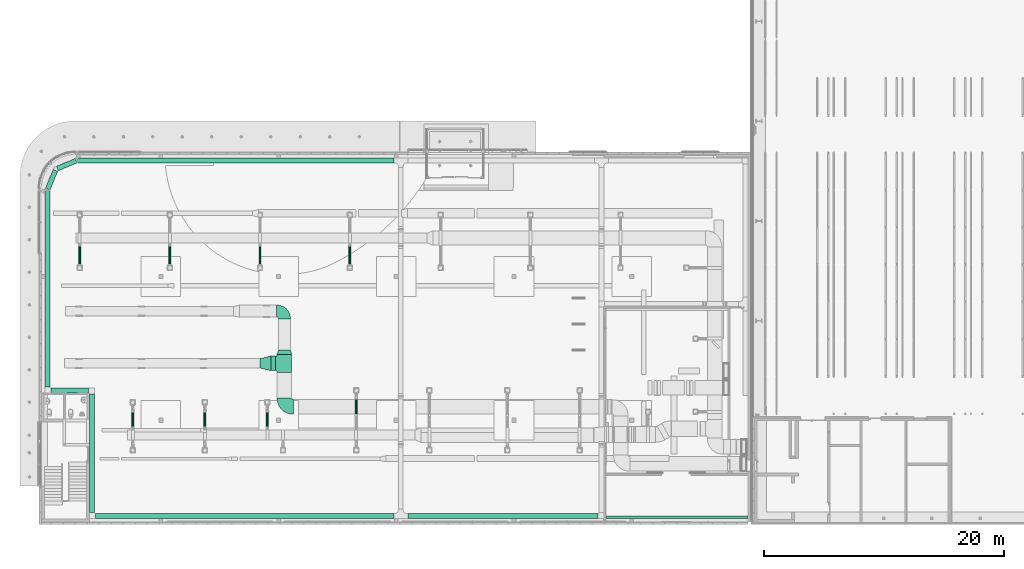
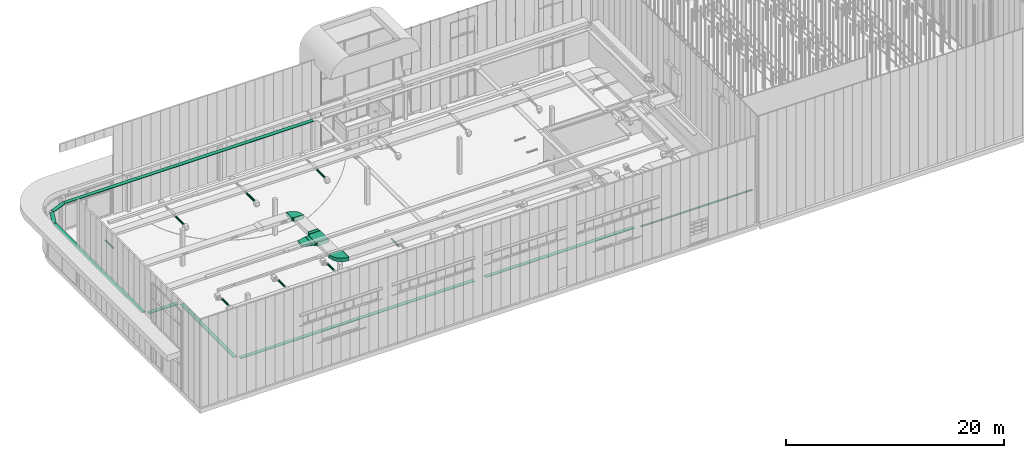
# One storey, part 254 of 302: 17 flow segments, 6 flow fittings.
"""IFC2X3 building model written with IfcOpenShell, lengths in metres."""

from ifc_helpers import new_model, entity, si_unit, converted_unit, derived_unit, direction, frame, frame_2d, origin, origin_2d_with_axis, place, context, subcontext, project, spatial, polyline, circle_curve, parameter, trimmed, segment, composite_curve, rectangle, circle, outline, extrude, source, transform, mapped, material, material_list, type_object, type_shapes, element, save


model = new_model("IFC2X3")

# Units and contexts
model_context = context("Model", 3, precision=1e-05, world=origin(), true_north=direction((6.12303176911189e-17, 1.0)))
body_context = subcontext(model_context, "Body", "Model", "MODEL_VIEW")
ifc_project = project(units=[si_unit("LENGTHUNIT", "METRE"), si_unit("AREAUNIT", "SQUARE_METRE"), si_unit("VOLUMEUNIT", "CUBIC_METRE"), converted_unit("PLANEANGLEUNIT", "DEGREE", entity("IfcRatioMeasure", 0.0174532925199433), si_unit("PLANEANGLEUNIT", "RADIAN"), dimensions=[0, 0, 0, 0, 0, 0, 0]), si_unit("MASSUNIT", "GRAM", prefix="KILO"), derived_unit("MASSDENSITYUNIT", [(si_unit("MASSUNIT", "GRAM", prefix="KILO"), 1), (si_unit("LENGTHUNIT", "METRE"), -3)]), derived_unit("MOMENTOFINERTIAUNIT", [(si_unit("LENGTHUNIT", "METRE"), 4)]), si_unit("TIMEUNIT", "SECOND"), si_unit("FREQUENCYUNIT", "HERTZ"), si_unit("THERMODYNAMICTEMPERATUREUNIT", "DEGREE_CELSIUS"), derived_unit("THERMALTRANSMITTANCEUNIT", [(si_unit("MASSUNIT", "GRAM", prefix="KILO"), 1), (si_unit("THERMODYNAMICTEMPERATUREUNIT", "KELVIN"), -1), (si_unit("TIMEUNIT", "SECOND"), -3)]), derived_unit("VOLUMETRICFLOWRATEUNIT", [(si_unit("LENGTHUNIT", "METRE"), 3), (si_unit("TIMEUNIT", "SECOND"), -1)]), si_unit("ELECTRICCURRENTUNIT", "AMPERE"), si_unit("ELECTRICVOLTAGEUNIT", "VOLT"), si_unit("POWERUNIT", "WATT"), si_unit("FORCEUNIT", "NEWTON", prefix="KILO"), si_unit("ILLUMINANCEUNIT", "LUX"), si_unit("LUMINOUSFLUXUNIT", "LUMEN"), si_unit("LUMINOUSINTENSITYUNIT", "CANDELA"), derived_unit("USERDEFINED", [(si_unit("MASSUNIT", "GRAM", prefix="KILO"), -1), (si_unit("LENGTHUNIT", "METRE"), -2), (si_unit("TIMEUNIT", "SECOND"), 3), (si_unit("LUMINOUSFLUXUNIT", "LUMEN"), 1)]), derived_unit("LINEARVELOCITYUNIT", [(si_unit("LENGTHUNIT", "METRE"), 1), (si_unit("TIMEUNIT", "SECOND"), -1)]), si_unit("PRESSUREUNIT", "PASCAL"), derived_unit("USERDEFINED", [(si_unit("LENGTHUNIT", "METRE"), -2), (si_unit("MASSUNIT", "GRAM", prefix="KILO"), 1), (si_unit("TIMEUNIT", "SECOND"), -2)]), derived_unit("LINEARFORCEUNIT", [(si_unit("MASSUNIT", "GRAM", prefix="KILO"), 1), (si_unit("LENGTHUNIT", "METRE"), 1), (si_unit("TIMEUNIT", "SECOND"), -2), (si_unit("LENGTHUNIT", "METRE"), -1)]), derived_unit("PLANARFORCEUNIT", [(si_unit("MASSUNIT", "GRAM", prefix="KILO"), 1), (si_unit("LENGTHUNIT", "METRE"), 1), (si_unit("TIMEUNIT", "SECOND"), -2), (si_unit("LENGTHUNIT", "METRE"), -2)])], contexts=[model_context])

# Site, building, storey
site_placement = place(None, origin())
site = spatial("IfcSite", under=ifc_project, at=site_placement, Name="Default", CompositionType="ELEMENT")
building_placement = place(site_placement, origin())
building = spatial("IfcBuilding", under=site, at=building_placement, CompositionType="ELEMENT")
storey_placement = place(building_placement, frame((0.0, 0.0, -1.3)))
storey = spatial("IfcBuildingStorey", under=building, at=storey_placement, Name="00_EG", CompositionType="ELEMENT", Elevation=-1.3)

# Flow segments
cable_carrier_segment_type = type_object("IfcCableCarrierSegmentType", Name="Kabeltrasse mit Formteilen:Channel Cable Tray", PredefinedType="CABLETRAYSEGMENT")
flow_segment_1_placement = place(storey_placement, origin())
element("IfcFlowSegment", 1, at=flow_segment_1_placement, inside=storey, type_object=cable_carrier_segment_type, Name="Kabeltrasse mit Formteilen:Channel Cable Tray", ObjectType="Kabeltrasse mit Formteilen:Channel Cable Tray", context=body_context, shape_type="SweptSolid", body=[
    extrude(rectangle(XDim=26.3040459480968, YDim=0.399999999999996, at=frame_2d((-1.77635683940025e-14, 0.0), x_axis=(1.0, 0.0))), frame((-250.504634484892, 45.0580889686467, 4.82), z_axis=(0.0, 0.0, 1.0), x_axis=(-1.0, 0.0, 0.0)), (0.0, 0.0, 1.0), 0.0600000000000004),
])
flow_segment_2_placement = place(storey_placement, origin())
element("IfcFlowSegment", 2, at=flow_segment_2_placement, inside=storey, type_object=cable_carrier_segment_type, Name="Kabeltrasse mit Formteilen:Channel Cable Tray", ObjectType="Kabeltrasse mit Formteilen:Channel Cable Tray", context=body_context, shape_type="SweptSolid", body=[
    extrude(rectangle(XDim=1.68645071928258, YDim=0.400000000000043, at=frame_2d((3.03090885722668e-14, -1.72639680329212e-14), x_axis=(1.0, 0.0))), frame((-264.550501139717, 44.7125644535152, 4.82), z_axis=(0.0, 0.0, 1.0), x_axis=(0.92387953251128, 0.382683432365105, 0.0)), (0.0, 0.0, 1.0), 0.0599999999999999),
])
flow_segment_3_placement = place(storey_placement, origin())
element("IfcFlowSegment", 3, at=flow_segment_3_placement, inside=storey, type_object=cable_carrier_segment_type, Name="Kabeltrasse mit Formteilen:Channel Cable Tray", ObjectType="Kabeltrasse mit Formteilen:Channel Cable Tray", context=body_context, shape_type="SweptSolid", body=[
    extrude(rectangle(XDim=1.6864507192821, YDim=0.399999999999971, at=frame_2d((6.60582699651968e-15, -1.60010893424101e-14), x_axis=(1.0, 0.0))), frame((-265.814586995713, 43.4484785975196, 4.82), z_axis=(0.0, 0.0, 1.0), x_axis=(0.382683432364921, 0.923879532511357, 0.0)), (0.0, 0.0, 1.0), 0.060000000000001),
])
flow_segment_4_placement = place(storey_placement, origin())
element("IfcFlowSegment", 4, at=flow_segment_4_placement, inside=storey, type_object=cable_carrier_segment_type, Name="Kabeltrasse mit Formteilen:Channel Cable Tray", ObjectType="Kabeltrasse mit Formteilen:Channel Cable Tray", context=body_context, shape_type="SweptSolid", body=[
    extrude(rectangle(XDim=16.3315459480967, YDim=0.399999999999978, at=frame_2d((0.0, 3.46389583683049e-14), x_axis=(1.0, 0.0))), frame((-266.160111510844, 34.3888619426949, 4.82), z_axis=(0.0, 0.0, 1.0), x_axis=(0.0, -1.0, 0.0)), (0.0, 0.0, 1.0), 0.0600000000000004),
])
flow_segment_5_placement = place(storey_placement, origin())
element("IfcFlowSegment", 5, at=flow_segment_5_placement, inside=storey, type_object=cable_carrier_segment_type, Name="Kabeltrasse mit Formteilen:Channel Cable Tray", ObjectType="Kabeltrasse mit Formteilen:Channel Cable Tray", context=body_context, shape_type="SweptSolid", body=[
    extrude(rectangle(XDim=3.09999999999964, YDim=0.399999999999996, at=origin_2d_with_axis()), frame((-264.310111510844, 25.9230889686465, 4.82)), (0.0, 0.0, 1.0), 0.0600000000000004),
])
flow_segment_6_placement = place(storey_placement, origin())
element("IfcFlowSegment", 6, at=flow_segment_6_placement, inside=storey, type_object=cable_carrier_segment_type, Name="Kabeltrasse mit Formteilen:Channel Cable Tray", ObjectType="Kabeltrasse mit Formteilen:Channel Cable Tray", context=body_context, shape_type="SweptSolid", body=[
    extrude(rectangle(XDim=9.82499999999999, YDim=0.399999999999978, at=frame_2d((0.0, -3.46389583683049e-14), x_axis=(1.0, 0.0))), frame((-262.460111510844, 20.7105889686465, 4.82), z_axis=(0.0, 0.0, 1.0), x_axis=(0.0, -1.0, 0.0)), (0.0, 0.0, 1.0), 0.0600000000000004),
])
flow_segment_7_placement = place(storey_placement, origin())
element("IfcFlowSegment", 7, at=flow_segment_7_placement, inside=storey, type_object=cable_carrier_segment_type, Name="Kabeltrasse mit Formteilen:Channel Cable Tray", ObjectType="Kabeltrasse mit Formteilen:Channel Cable Tray", context=body_context, shape_type="SweptSolid", body=[
    extrude(rectangle(XDim=24.8075000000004, YDim=0.4, at=origin_2d_with_axis()), frame((-249.756361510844, 15.4980889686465, 4.82), z_axis=(0.0, 0.0, 1.0), x_axis=(-1.0, 0.0, 0.0)), (0.0, 0.0, 1.0), 0.0600000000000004),
])
flow_segment_8_placement = place(storey_placement, origin())
element("IfcFlowSegment", 8, at=flow_segment_8_placement, inside=storey, type_object=cable_carrier_segment_type, Name="Kabeltrasse mit Formteilen:Channel Cable Tray", ObjectType="Kabeltrasse mit Formteilen:Channel Cable Tray", context=body_context, shape_type="SweptSolid", body=[
    extrude(rectangle(XDim=15.8074999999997, YDim=0.4, at=origin_2d_with_axis()), frame((-228.288861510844, 15.4980889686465, 4.82), z_axis=(0.0, 0.0, 1.0), x_axis=(-1.0, 0.0, 0.0)), (0.0, 0.0, 1.0), 0.0600000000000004),
])
flow_segment_9_placement = place(storey_placement, origin())
element("IfcFlowSegment", 9, at=flow_segment_9_placement, inside=storey, type_object=cable_carrier_segment_type, Name="Kabeltrasse mit Formteilen:Channel Cable Tray", ObjectType="Kabeltrasse mit Formteilen:Channel Cable Tray", context=body_context, shape_type="SweptSolid", body=[
    extrude(rectangle(XDim=11.775, YDim=0.199999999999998, at=frame_2d((1.73194791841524e-14, -2.16493489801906e-15), x_axis=(1.0, 0.0))), frame((-213.797611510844, 15.3980889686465, 4.74)), (0.0, 0.0, 1.0), 0.0600000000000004),
])

# Flow fittings
ifc_material = material(Name="<Unnamed>")
ifc_material_list_1 = material_list([ifc_material, ifc_material, ifc_material, ifc_material, ifc_material])
duct_fitting_type_1 = type_object("IfcDuctFittingType", Name="Bogen rechteck BS:Standard", PredefinedType="NOTDEFINED", material=ifc_material_list_1)
shared_shape_1 = source(origin(), body_context, "Body", "SweptSolid", [
    extrude(rectangle(XDim=0.0550000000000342, YDim=1.2, at=frame_2d((6.76542155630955e-17, -5.55111512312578e-17), x_axis=(1.0, 0.0))), frame((0.0, 0.727499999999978, -0.2), z_axis=(0.0, 0.0, 1.0), x_axis=(0.0, 1.0, 0.0)), (0.0, 0.0, 1.0), 0.4),
    extrude(rectangle(XDim=1.19999999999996, YDim=0.0549999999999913, at=frame_2d((1.11577413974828e-14, 8.93382590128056e-15), x_axis=(1.0, 0.0))), frame((-0.727499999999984, 0.0, -0.2), z_axis=(0.0, 0.0, 1.0), x_axis=(0.0, -1.0, 0.0)), (0.0, 0.0, 1.0), 0.4),
    extrude(outline(composite_curve([segment(polyline([(-0.949999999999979, -0.35), (0.250000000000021, -0.35)]), True, "CONTINUOUS"), segment(trimmed(circle_curve(frame_2d((0.350000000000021, -0.35), x_axis=(0.0, 1.0)), 0.0999999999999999), [parameter(0.0)], [parameter(89.9999999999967)], True, "PARAMETER"), False, "CONTINUOUS"), segment(polyline([(0.350000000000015, -0.25), (0.349999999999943, 0.95)]), True, "CONTINUOUS"), segment(trimmed(circle_curve(frame_2d((0.350000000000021, -0.35), x_axis=(0.0, 1.0)), 1.3), [parameter(0.0)], [parameter(89.9999999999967)], True, "PARAMETER"), True, "CONTINUOUS")], self_intersect=False)), frame((-0.349999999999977, 0.350000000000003, -0.2), z_axis=(0.0, 0.0, 1.0), x_axis=(-1.0, 0.0, 0.0)), (0.0, 0.0, 1.0), 0.4),
    extrude(rectangle(XDim=0.00500000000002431, YDim=1.26, at=frame_2d((9.40740541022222e-15, 0.0), x_axis=(1.0, 0.0))), frame((-0.752499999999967, 0.0, -0.23)), (0.0, 0.0, 1.0), 0.46),
    extrude(rectangle(XDim=0.00500000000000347, YDim=1.26, at=origin_2d_with_axis()), frame((0.0, 0.752499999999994, -0.23), z_axis=(0.0, 0.0, 1.0), x_axis=(0.0, 1.0, 0.0)), (0.0, 0.0, 1.0), 0.46),
])
type_shapes(duct_fitting_type_1, [shared_shape_1])
flow_fitting_1_placement = place(storey_placement, frame((-246.451525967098, 24.5574450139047, 5.05), z_axis=(0.0, 0.0, 1.0), x_axis=(0.0, -1.0, 0.0)))
element("IfcFlowFitting", 10, at=flow_fitting_1_placement, inside=storey, type_object=duct_fitting_type_1, material=ifc_material, Name="Bogen rechteck BS:Standard", ObjectType="Bogen rechteck BS:Standard", context=body_context, shape_type="MappedRepresentation", body=[
    mapped(shared_shape_1, transform((0.0, 0.0, 0.0), scale=1.0)),
])
ifc_material_list_2 = material_list([ifc_material, ifc_material, ifc_material, ifc_material, ifc_material, ifc_material, ifc_material])
duct_fitting_type_2 = type_object("IfcDuctFittingType", Name="T-Stück rechteck gerade TG:Standard", PredefinedType="NOTDEFINED", material=ifc_material_list_2)
shared_shape_2 = source(origin(), body_context, "Body", "SweptSolid", [
    extrude(rectangle(XDim=0.0500000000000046, YDim=1.2, at=origin_2d_with_axis()), frame((0.0, -0.726, -0.199999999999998), z_axis=(0.0, 0.0, 1.0), x_axis=(0.0, -1.0, 0.0)), (0.0, 0.0, 1.0), 0.4),
    extrude(rectangle(XDim=0.0500000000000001, YDim=1.2, at=frame_2d((6.76542155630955e-17, 0.0), x_axis=(1.0, 0.0))), frame((0.7234, 0.0, -0.199999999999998), z_axis=(0.0, 0.0, 1.0), x_axis=(-1.0, 0.0, 0.0)), (0.0, 0.0, 1.0), 0.4),
    extrude(rectangle(XDim=0.0499999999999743, YDim=1.2, at=origin_2d_with_axis()), frame((-0.726600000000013, 0.0, -0.199999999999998)), (0.0, 0.0, 1.0), 0.4),
    extrude(outline(composite_curve([segment(trimmed(circle_curve(frame_2d((-0.70064, -0.299800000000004), x_axis=(-1.0, 0.0)), 0.1), [parameter(180.0)], [parameter(269.999999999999)], True, "PARAMETER"), False, "CONTINUOUS"), segment(polyline([(-0.60064, -0.299800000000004), (-0.60064, -0.300800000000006)]), True, "CONTINUOUS"), segment(polyline([(-0.60064, -0.300800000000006), (0.59936, -0.300800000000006)]), True, "CONTINUOUS"), segment(polyline([(0.59936, -0.300800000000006), (0.59936, -0.299799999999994)]), True, "CONTINUOUS"), segment(trimmed(circle_curve(frame_2d((0.69936, -0.299799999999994), x_axis=(-1.0, 0.0)), 0.1), [parameter(270.0)], [parameter(0.0)], True, "PARAMETER"), False, "CONTINUOUS"), segment(polyline([(0.699359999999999, -0.199799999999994), (0.70096, -0.199799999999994)]), True, "CONTINUOUS"), segment(polyline([(0.70096, -0.199799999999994), (0.70096, 1.0002)]), True, "CONTINUOUS"), segment(polyline([(0.70096, 1.0002), (-0.699040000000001, 1.0002)]), True, "CONTINUOUS"), segment(polyline([(-0.699040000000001, 1.0002), (-0.699040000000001, -0.199800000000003)]), True, "CONTINUOUS"), segment(polyline([(-0.699040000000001, -0.199800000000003), (-0.70064, -0.199800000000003)]), True, "CONTINUOUS")], self_intersect=False)), frame((-0.000640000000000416, -0.400199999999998, -0.2), z_axis=(0.0, 0.0, -1.0), x_axis=(-1.0, 0.0, 0.0)), (0.0, 0.0, -1.0), 0.4),
    extrude(rectangle(XDim=0.00499999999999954, YDim=1.26, at=frame_2d((6.76542155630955e-17, 0.0), x_axis=(1.0, 0.0))), frame((0.0, -0.753500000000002, -0.229999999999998), z_axis=(0.0, 0.0, 1.0), x_axis=(0.0, 1.0, 0.0)), (0.0, 0.0, 1.0), 0.46),
    extrude(rectangle(XDim=0.00500000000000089, YDim=1.26, at=frame_2d((6.76542155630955e-17, 0.0), x_axis=(1.0, 0.0))), frame((0.750900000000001, 0.0, -0.229999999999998), z_axis=(0.0, 0.0, 1.0), x_axis=(-1.0, 0.0, 0.0)), (0.0, 0.0, 1.0), 0.46),
    extrude(rectangle(XDim=0.00500000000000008, YDim=1.26, at=frame_2d((-6.76542155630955e-17, 0.0), x_axis=(1.0, 0.0))), frame((-0.7541, 0.0, -0.229999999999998), z_axis=(0.0, 0.0, 1.0), x_axis=(-1.0, 0.0, 0.0)), (0.0, 0.0, 1.0), 0.46),
])
type_shapes(duct_fitting_type_2, [shared_shape_2])
flow_fitting_2_placement = place(storey_placement, frame((-246.451525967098, 28.1787086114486, 5.05), z_axis=(0.0, 0.0, 1.0), x_axis=(0.0, -1.0, 0.0)))
element("IfcFlowFitting", 11, at=flow_fitting_2_placement, inside=storey, type_object=duct_fitting_type_2, material=ifc_material, Name="T-Stück rechteck gerade TG:Standard", ObjectType="T-Stück rechteck gerade TG:Standard", context=body_context, shape_type="MappedRepresentation", body=[
    mapped(shared_shape_2, transform((0.0, 0.0, 0.0), scale=1.0)),
])
ifc_material_list_3 = material_list([ifc_material, ifc_material, ifc_material, ifc_material, ifc_material])
ifc_material_list_4 = material_list([ifc_material, ifc_material, ifc_material, ifc_material, ifc_material])
duct_fitting_type_3 = type_object("IfcDuctFittingType", Name="Übergang rechteck rechteck US:Standard", PredefinedType="NOTDEFINED", material=ifc_material_list_4)
shared_shape_3 = source(origin(), body_context, "Body", "SweptSolid", [
    extrude(rectangle(XDim=0.0550000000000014, YDim=0.799999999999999, at=frame_2d((6.76542155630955e-17, 0.0), x_axis=(1.0, 0.0))), frame((0.882499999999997, 0.0, -0.125000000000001)), (0.0, 0.0, 1.0), 0.25),
    extrude(outline(polyline([(-0.533578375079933, -0.485071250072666), (0.291042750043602, -0.485071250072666), (0.485071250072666, 0.2910427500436), (-0.242535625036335, 0.679099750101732), (-0.533578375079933, -0.485071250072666)])), frame((0.455000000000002, 0.0, -0.125), z_axis=(0.0, 0.0, 1.0), x_axis=(0.970142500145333, 0.242535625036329, 0.0)), (0.0, 0.0, 1.0), 0.25),
    extrude(rectangle(XDim=0.0550000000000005, YDim=1.2, at=frame_2d((-4.78783679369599e-16, -5.55111512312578e-17), x_axis=(1.0, 0.0))), frame((0.0274999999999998, 0.0, -0.125)), (0.0, 0.0, 1.0), 0.25),
    extrude(rectangle(XDim=0.00499999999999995, YDim=0.859999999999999, at=origin_2d_with_axis()), frame((0.907499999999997, 0.0, -0.155000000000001)), (0.0, 0.0, 1.0), 0.31),
    extrude(rectangle(XDim=0.0050000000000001, YDim=1.26, at=frame_2d((-5.32993787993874e-16, 0.0), x_axis=(1.0, 0.0))), frame((0.00249999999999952, 0.0, -0.155)), (0.0, 0.0, 1.0), 0.31),
])
type_shapes(duct_fitting_type_3, [shared_shape_3])
flow_fitting_3_placement = place(storey_placement, frame((-247.567525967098, 28.1787086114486, 5.12499999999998), z_axis=(0.0, 0.0, 1.0), x_axis=(-1.0, 0.0, 0.0)))
element("IfcFlowFitting", 12, at=flow_fitting_3_placement, inside=storey, type_object=duct_fitting_type_3, material=ifc_material_list_3, Name="Übergang rechteck rechteck US:Standard", ObjectType="Übergang rechteck rechteck US:Standard", context=body_context, shape_type="MappedRepresentation", body=[
    mapped(shared_shape_3, transform((0.0, 0.0, 0.0), scale=1.0)),
])
ifc_material_list_5 = material_list([ifc_material, ifc_material, ifc_material, ifc_material, ifc_material])
ifc_material_list_6 = material_list([ifc_material, ifc_material, ifc_material, ifc_material, ifc_material])
duct_fitting_type_4 = type_object("IfcDuctFittingType", Name="Übergang rechteck rechteck US:Standard", PredefinedType="NOTDEFINED", material=ifc_material_list_6)
shared_shape_4 = source(origin(), body_context, "Body", "SweptSolid", [
    extrude(rectangle(XDim=0.0550000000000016, YDim=1.2, at=origin_2d_with_axis()), frame((0.332499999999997, 0.0, -0.0500000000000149)), (0.0, 0.0, 1.0), 0.25),
    extrude(outline(polyline([(-0.125000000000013, -0.1625), (0.124999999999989, -0.1625), (0.125000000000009, 0.0875), (-0.124999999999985, 0.2375), (-0.125000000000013, -0.1625)])), frame((0.180000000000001, -0.6, 0.0374999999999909), z_axis=(0.0, 1.0, 0.0), x_axis=(1.0, 0.0, 0.0)), (0.0, 0.0, 1.0), 1.2),
    extrude(rectangle(XDim=0.0550000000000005, YDim=1.2, at=frame_2d((-4.78783679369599e-16, -5.55111512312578e-17), x_axis=(1.0, 0.0))), frame((0.0274999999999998, 0.0, -0.2)), (0.0, 0.0, 1.0), 0.4),
    extrude(rectangle(XDim=0.00500000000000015, YDim=1.26, at=frame_2d((-3.38271077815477e-17, 0.0), x_axis=(1.0, 0.0))), frame((0.357499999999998, 0.0, -0.0800000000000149)), (0.0, 0.0, 1.0), 0.31),
    extrude(rectangle(XDim=0.0050000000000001, YDim=1.26, at=frame_2d((-5.32993787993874e-16, 0.0), x_axis=(1.0, 0.0))), frame((0.00249999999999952, 0.0, -0.23)), (0.0, 0.0, 1.0), 0.46),
])
type_shapes(duct_fitting_type_4, [shared_shape_4])
flow_fitting_4_placement = place(storey_placement, frame((-247.207525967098, 28.1787086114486, 5.05), z_axis=(0.0, 0.0, 1.0), x_axis=(-1.0, 0.0, 0.0)))
element("IfcFlowFitting", 13, at=flow_fitting_4_placement, inside=storey, type_object=duct_fitting_type_4, material=ifc_material_list_5, Name="Übergang rechteck rechteck US:Standard", ObjectType="Übergang rechteck rechteck US:Standard", context=body_context, shape_type="MappedRepresentation", body=[
    mapped(shared_shape_4, transform((0.0, 0.0, 0.0), scale=1.0)),
])
ifc_material_list_7 = material_list([ifc_material, ifc_material, ifc_material, ifc_material, ifc_material])
ifc_material_list_8 = material_list([ifc_material, ifc_material, ifc_material, ifc_material, ifc_material])
duct_fitting_type_5 = type_object("IfcDuctFittingType", Name="Übergang rechteck rechteck US:Standard", PredefinedType="NOTDEFINED", material=ifc_material_list_8)
shared_shape_5 = source(origin(), body_context, "Body", "SweptSolid", [
    extrude(rectangle(XDim=0.0550000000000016, YDim=1.0, at=origin_2d_with_axis()), frame((0.332499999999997, 0.0, -0.199999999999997)), (0.0, 0.0, 1.0), 0.4),
    extrude(outline(polyline([(-0.338893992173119, -0.510662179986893), (-0.069635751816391, -0.510662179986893), (0.301754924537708, 0.417814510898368), (0.106774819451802, 0.603509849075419), (-0.338893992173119, -0.510662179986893)])), frame((0.180000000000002, 0.0, -0.2), z_axis=(0.0, 0.0, 1.0), x_axis=(0.928476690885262, 0.371390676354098, 0.0)), (0.0, 0.0, 1.0), 0.4),
    extrude(rectangle(XDim=0.0550000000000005, YDim=1.2, at=frame_2d((-4.78783679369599e-16, -5.55111512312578e-17), x_axis=(1.0, 0.0))), frame((0.0274999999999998, 0.0, -0.2)), (0.0, 0.0, 1.0), 0.4),
    extrude(rectangle(XDim=0.00500000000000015, YDim=1.06, at=frame_2d((-3.38271077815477e-17, 0.0), x_axis=(1.0, 0.0))), frame((0.357499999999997, 0.0, -0.229999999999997)), (0.0, 0.0, 1.0), 0.46),
    extrude(rectangle(XDim=0.0050000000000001, YDim=1.26, at=frame_2d((-5.32993787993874e-16, 0.0), x_axis=(1.0, 0.0))), frame((0.00249999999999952, 0.0, -0.23)), (0.0, 0.0, 1.0), 0.46),
])
type_shapes(duct_fitting_type_5, [shared_shape_5])
flow_fitting_5_placement = place(storey_placement, frame((-246.451525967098, 28.9353086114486, 5.05), z_axis=(0.0, 0.0, 1.0), x_axis=(0.0, 1.0, 0.0)))
element("IfcFlowFitting", 14, at=flow_fitting_5_placement, inside=storey, type_object=duct_fitting_type_5, material=ifc_material_list_7, Name="Übergang rechteck rechteck US:Standard", ObjectType="Übergang rechteck rechteck US:Standard", context=body_context, shape_type="MappedRepresentation", body=[
    mapped(shared_shape_5, transform((0.0, 0.0, 0.0), scale=1.0)),
])
ifc_material_list_9 = material_list([ifc_material, ifc_material, ifc_material, ifc_material, ifc_material])
ifc_material_list_10 = material_list([ifc_material, ifc_material, ifc_material, ifc_material, ifc_material])
duct_fitting_type_6 = type_object("IfcDuctFittingType", Name="Bogen rechteck BS:Standard", PredefinedType="NOTDEFINED", material=ifc_material_list_10)
shared_shape_6 = source(origin(), body_context, "Body", "SweptSolid", [
    extrude(rectangle(XDim=0.0550000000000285, YDim=1.0, at=frame_2d((-6.76542155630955e-17, 8.32667268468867e-17), x_axis=(1.0, 0.0))), frame((0.0, 0.627499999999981, -0.2), z_axis=(0.0, 0.0, 1.0), x_axis=(0.0, 1.0, 0.0)), (0.0, 0.0, 1.0), 0.4),
    extrude(rectangle(XDim=0.999999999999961, YDim=0.0549999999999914, at=frame_2d((9.68669588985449e-15, 7.47839290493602e-15), x_axis=(1.0, 0.0))), frame((-0.627499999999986, 0.0, -0.2), z_axis=(0.0, 0.0, 1.0), x_axis=(0.0, -1.0, 0.0)), (0.0, 0.0, 1.0), 0.4),
    extrude(outline(composite_curve([segment(polyline([(-0.799999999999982, -0.3), (0.200000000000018, -0.3)]), True, "CONTINUOUS"), segment(trimmed(circle_curve(frame_2d((0.300000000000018, -0.3), x_axis=(0.0, 1.0)), 0.1), [parameter(0.0)], [parameter(89.9999999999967)], True, "PARAMETER"), False, "CONTINUOUS"), segment(polyline([(0.300000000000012, -0.2), (0.299999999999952, 0.8)]), True, "CONTINUOUS"), segment(trimmed(circle_curve(frame_2d((0.300000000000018, -0.3), x_axis=(0.0, 1.0)), 1.1), [parameter(0.0)], [parameter(89.9999999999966)], True, "PARAMETER"), True, "CONTINUOUS")], self_intersect=False)), frame((-0.29999999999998, 0.300000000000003, -0.2), z_axis=(0.0, 0.0, 1.0), x_axis=(-1.0, 0.0, 0.0)), (0.0, 0.0, 1.0), 0.4),
    extrude(rectangle(XDim=0.00500000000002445, YDim=1.06, at=frame_2d((7.85070793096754e-15, 0.0), x_axis=(1.0, 0.0))), frame((-0.652499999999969, 0.0, -0.23)), (0.0, 0.0, 1.0), 0.46),
    extrude(rectangle(XDim=0.00500000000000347, YDim=1.06, at=origin_2d_with_axis()), frame((0.0, 0.652499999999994, -0.23), z_axis=(0.0, 0.0, 1.0), x_axis=(0.0, 1.0, 0.0)), (0.0, 0.0, 1.0), 0.46),
])
type_shapes(duct_fitting_type_6, [shared_shape_6])
flow_fitting_6_placement = place(storey_placement, frame((-246.451525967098, 32.5240784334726, 5.05000000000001), z_axis=(0.0, 0.0, 1.0), x_axis=(0.0, 1.0, 0.0)))
element("IfcFlowFitting", 15, at=flow_fitting_6_placement, inside=storey, type_object=duct_fitting_type_6, material=ifc_material_list_9, Name="Bogen rechteck BS:Standard", ObjectType="Bogen rechteck BS:Standard", context=body_context, shape_type="MappedRepresentation", body=[
    mapped(shared_shape_6, transform((0.0, 0.0, 0.0), scale=1.0)),
])

# Flow segments
duct_segment_type = type_object("IfcDuctSegmentType", Name="Rund:STR_Segment_RND_GS_EA", PredefinedType="NOTDEFINED")
flow_segment_10_placement = place(storey_placement, origin())
element("IfcFlowSegment", 16, at=flow_segment_10_placement, inside=storey, type_object=duct_segment_type, Name="Rund:STR_Segment_RND_GS_EA", ObjectType="Rund:STR_Segment_RND_GS_EA", context=body_context, shape_type="SweptSolid", body=[
    extrude(circle(Radius=0.1, at=origin_2d_with_axis()), frame((-263.476224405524, 36.4181484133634, 4.91), z_axis=(0.0, 1.0, 0.0), x_axis=(-1.0, 0.0, 0.0)), (0.0, 0.0, 1.0), 1.46507738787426),
])
flow_segment_11_placement = place(storey_placement, origin())
element("IfcFlowSegment", 17, at=flow_segment_11_placement, inside=storey, type_object=duct_segment_type, Name="Rund:STR_Segment_RND_GS_EA", ObjectType="Rund:STR_Segment_RND_GS_EA", context=body_context, shape_type="SweptSolid", body=[
    extrude(circle(Radius=0.1, at=origin_2d_with_axis()), frame((-255.983284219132, 36.4181484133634, 4.91), z_axis=(0.0, 1.0, 0.0), x_axis=(-1.0, 0.0, 0.0)), (0.0, 0.0, 1.0), 1.46507738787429),
])
flow_segment_12_placement = place(storey_placement, origin())
element("IfcFlowSegment", 18, at=flow_segment_12_placement, inside=storey, type_object=duct_segment_type, Name="Rund:STR_Segment_RND_GS_EA", ObjectType="Rund:STR_Segment_RND_GS_EA", context=body_context, shape_type="SweptSolid", body=[
    extrude(circle(Radius=0.1, at=origin_2d_with_axis()), frame((-248.483293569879, 36.4181484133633, 4.91), z_axis=(0.0, 1.0, 0.0), x_axis=(-1.0, 0.0, 0.0)), (0.0, 0.0, 1.0), 1.46507738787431),
])
flow_segment_13_placement = place(storey_placement, origin())
element("IfcFlowSegment", 19, at=flow_segment_13_placement, inside=storey, type_object=duct_segment_type, Name="Rund:STR_Segment_RND_GS_EA", ObjectType="Rund:STR_Segment_RND_GS_EA", context=body_context, shape_type="SweptSolid", body=[
    extrude(circle(Radius=0.1, at=origin_2d_with_axis()), frame((-241.004454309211, 36.4181484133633, 4.91), z_axis=(0.0, 1.0, 0.0), x_axis=(-1.0, 0.0, 0.0)), (0.0, 0.0, 1.0), 1.46507738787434),
])
flow_segment_14_placement = place(storey_placement, origin())
element("IfcFlowSegment", 20, at=flow_segment_14_placement, inside=storey, type_object=duct_segment_type, Name="Rund:STR_Segment_RND_GS_EA", ObjectType="Rund:STR_Segment_RND_GS_EA", context=body_context, shape_type="SweptSolid", body=[
    extrude(circle(Radius=0.1, at=origin_2d_with_axis()), frame((-240.478749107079, 23.984658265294, 4.71999999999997), z_axis=(0.0, 1.0, 0.0), x_axis=(-1.0, 0.0, 0.0)), (0.0, 0.0, 1.0), 1.20262234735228),
])
flow_segment_15_placement = place(storey_placement, origin())
element("IfcFlowSegment", 21, at=flow_segment_15_placement, inside=storey, type_object=duct_segment_type, Name="Rund:STR_Segment_RND_GS_EA", ObjectType="Rund:STR_Segment_RND_GS_EA", context=body_context, shape_type="SweptSolid", body=[
    extrude(circle(Radius=0.1, at=origin_2d_with_axis()), frame((-247.869417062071, 22.9468155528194, 5.12500000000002), z_axis=(0.0, 1.0, 0.0), x_axis=(-1.0, 0.0, 0.0)), (0.0, 0.0, 1.0), 1.13012924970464),
])
flow_segment_16_placement = place(storey_placement, origin())
element("IfcFlowSegment", 22, at=flow_segment_16_placement, inside=storey, type_object=duct_segment_type, Name="Rund:STR_Segment_RND_GS_EA", ObjectType="Rund:STR_Segment_RND_GS_EA", context=body_context, shape_type="SweptSolid", body=[
    extrude(circle(Radius=0.1, at=origin_2d_with_axis()), frame((-253.062285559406, 22.9468155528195, 5.12500000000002), z_axis=(0.0, 1.0, 0.0), x_axis=(-1.0, 0.0, 0.0)), (0.0, 0.0, 1.0), 1.13012924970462),
])
flow_segment_17_placement = place(storey_placement, origin())
element("IfcFlowSegment", 23, at=flow_segment_17_placement, inside=storey, type_object=duct_segment_type, Name="Rund:STR_Segment_RND_GS_EA", ObjectType="Rund:STR_Segment_RND_GS_EA", context=body_context, shape_type="SweptSolid", body=[
    extrude(circle(Radius=0.1, at=origin_2d_with_axis()), frame((-259.059474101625, 22.9468155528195, 5.12500000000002), z_axis=(0.0, 1.0, 0.0), x_axis=(-1.0, 0.0, 0.0)), (0.0, 0.0, 1.0), 1.13012924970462),
])

save(model, "model.ifc")
